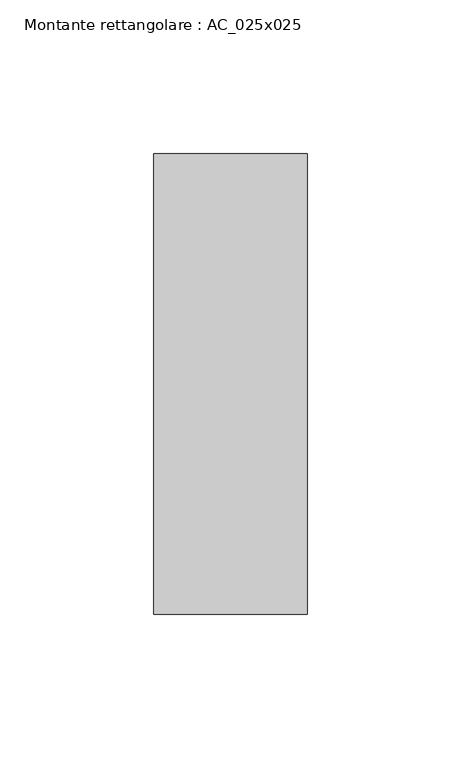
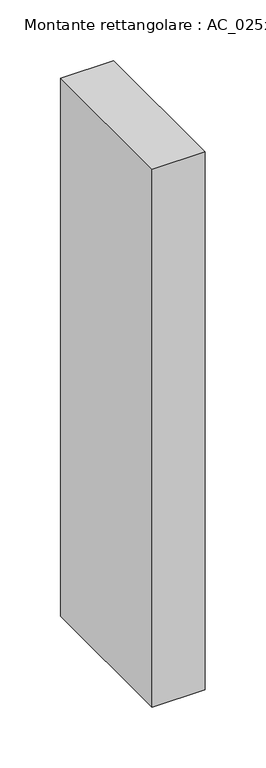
"""IFC4 building model written with IfcOpenShell, lengths in millimetres: member geometry, Montante rettangolare : AC_025x025."""

from ifc_helpers import new_model, si_unit, frame, origin, place, context, project, spatial, polyline, outline, extrude, source, transform, mapped, element, save


def montante_rettangolare_ac_025x025_21ed5f5e(model_context):
    return source(origin(), model_context, "Body", "SweptSolid", [
        extrude(outline(polyline([(0.0, 75.0), (0.0, -75.0), (-50.0, -75.0), (-50.0, 75.0), (0.0, 75.0)])), frame((0.0, 0.0, -538.0), z_axis=(0.0, 0.0, 1.0), x_axis=(1.0, 0.0, 0.0)), (0.0, 0.0, 1.0), 538.0),
    ])


if __name__ == "__main__":
    model = new_model("IFC4")
    model_context = context("Model", 3, world=origin())
    ifc_project = project(units=[si_unit("LENGTHUNIT", "METRE", prefix="MILLI")], contexts=[model_context])
    site = spatial("IfcSite", under=ifc_project)
    building = spatial("IfcBuilding", under=site)
    placement = place(None, origin())
    montante_rettangolare_ac_025x025_shape = montante_rettangolare_ac_025x025_21ed5f5e(model_context)
    element("IfcMember", 1, ObjectType="Montante rettangolare : AC_025x025", at=placement, inside=building, context=model_context, shape_type="MappedRepresentation", body=[
        mapped(montante_rettangolare_ac_025x025_shape, transform((0.0, 0.0, 0.0), x_axis=(1.0, 0.0, 0.0), y_axis=(0.0, 1.0, 0.0), z_axis=(0.0, 0.0, 1.0))),
    ])
    save(model, "model.ifc")
